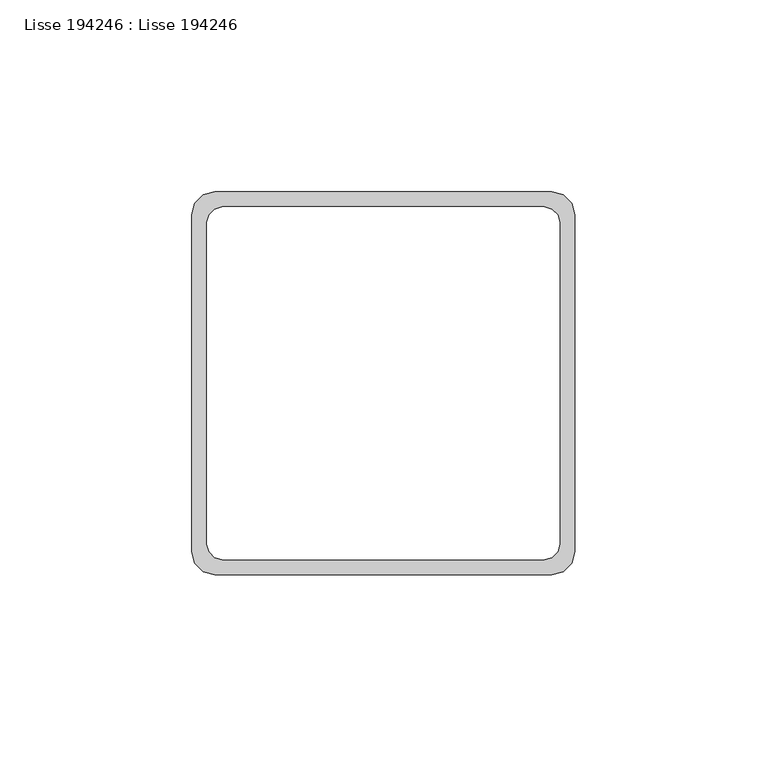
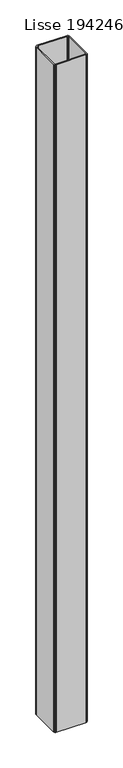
"""IFC4 building model written with IfcOpenShell, lengths in millimetres: beam geometry, Lisse 194246 : Lisse 194246."""

from ifc_helpers import new_model, si_unit, frame, origin, place, context, project, spatial, polyline, outline, extrude, source, transform, mapped, element, save


def lisse_194246_lisse_194246_3ff09583(model_context):
    return source(origin(), model_context, "Body", "SweptSolid", [
        extrude(outline(polyline([(-180.0000001, -2106.0), (-179.1961526, -2103.0), (-177.0000001, -2100.8038476), (-174.0000001, -2100.0), (-86.0000001, -2100.0), (-83.0000001, -2100.8038476), (-80.8038477, -2103.0), (-80.0000001, -2106.0), (-80.0000001, -2194.0), (-80.8038477, -2197.0), (-83.0000001, -2199.1961524), (-86.0000001, -2200.0), (-174.0000001, -2200.0), (-177.0000001, -2199.1961524), (-179.1961526, -2197.0), (-180.0000001, -2194.0), (-180.0000001, -2106.0)]), holes=[polyline([(-176.0000001, -2192.0), (-175.4641017, -2194.0), (-174.0000001, -2195.4641016), (-172.0000001, -2196.0), (-88.0000001, -2196.0), (-86.0000001, -2195.4641016), (-84.5358985, -2194.0), (-84.0000001, -2192.0), (-84.0000001, -2108.0), (-84.5358985, -2106.0), (-86.0000001, -2104.5358984), (-88.0000001, -2104.0), (-172.0000001, -2104.0), (-174.0000001, -2104.5358984), (-175.4641017, -2106.0), (-176.0000001, -2108.0), (-176.0000001, -2192.0)])]), frame((0.0, 0.0, 5000.0), z_axis=(0.0, 0.0, 1.0), x_axis=(1.0, 0.0, 0.0)), (0.0, 0.0, 1.0), 2100.0),
    ])


if __name__ == "__main__":
    model = new_model("IFC4")
    model_context = context("Model", 3, world=origin())
    ifc_project = project(units=[si_unit("LENGTHUNIT", "METRE", prefix="MILLI")], contexts=[model_context])
    site = spatial("IfcSite", under=ifc_project)
    building = spatial("IfcBuilding", under=site)
    placement = place(None, origin())
    lisse_194246_lisse_194246_shape = lisse_194246_lisse_194246_3ff09583(model_context)
    element("IfcBeam", 1, ObjectType="Lisse 194246 : Lisse 194246", at=placement, inside=building, context=model_context, shape_type="MappedRepresentation", body=[
        mapped(lisse_194246_lisse_194246_shape, transform((0.0, 0.0, 0.0), x_axis=(1.0, 0.0, 0.0), y_axis=(0.0, 1.0, 0.0), z_axis=(0.0, 0.0, 1.0))),
    ])
    save(model, "model.ifc")
